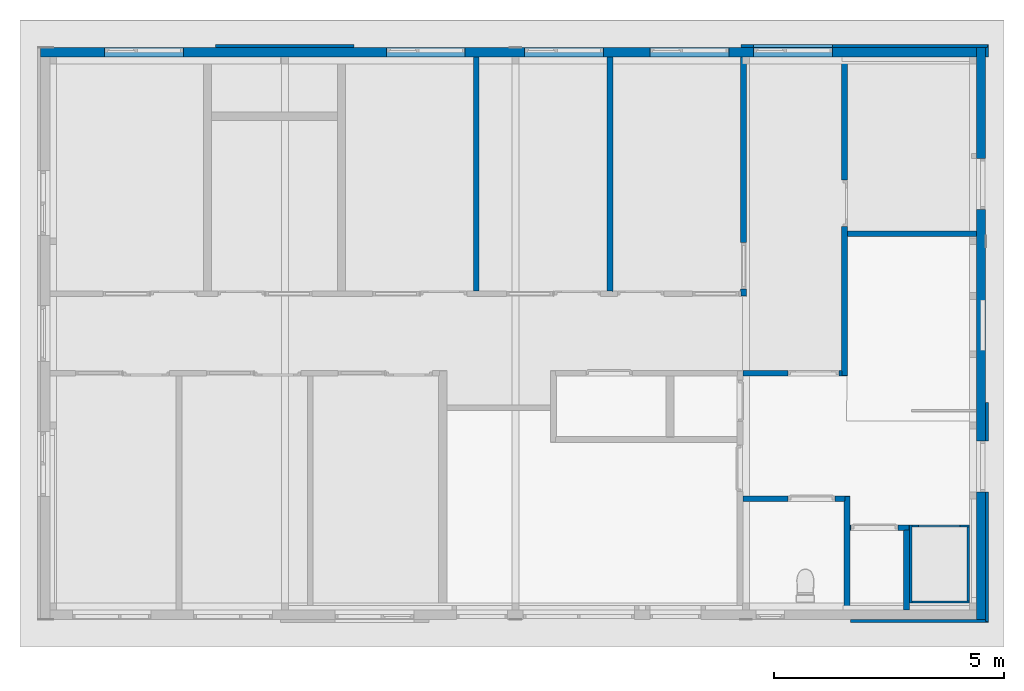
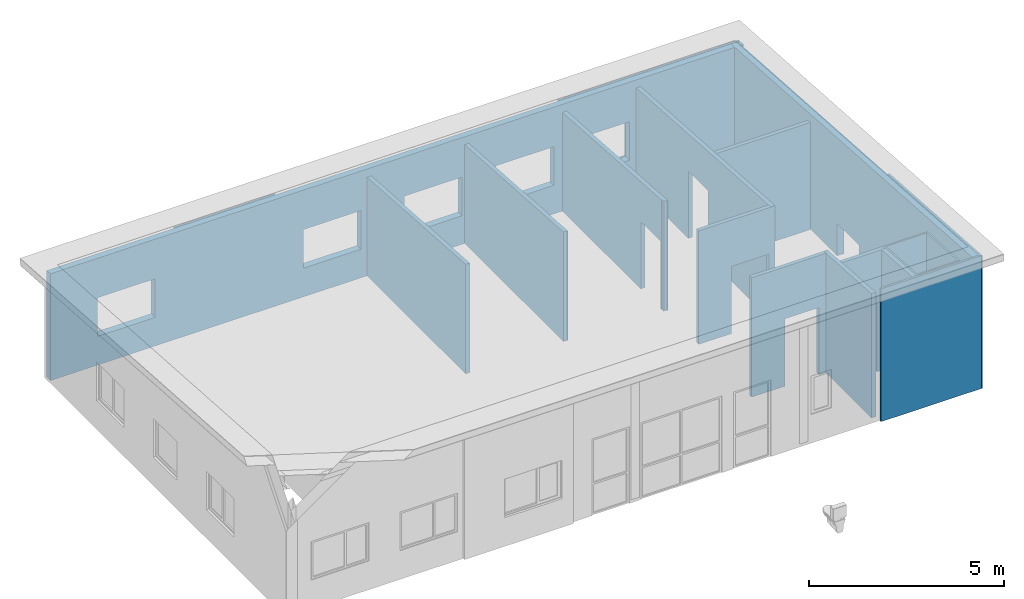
# One storey, part 3 of 37: 21 walls, 16 openings.
"""IFC2X3 building model written with IfcOpenShell, lengths in millimetres."""

from ifc_helpers import new_model, entity, si_unit, converted_unit, frame, frame_2d, origin, origin_with_axes, place, context, subcontext, project, spatial, polyline, rectangle, outline, extrude, clip, halfspace, bounded_halfspace, material, layer, layer_set, layer_usage, element, save


model = new_model("IFC2X3")

# Units and contexts
model_context = context("Model", 3, precision=1e-05, world=origin())
plan_context = context("Plan", 3, precision=1e-05, world=origin())
body_context = subcontext(model_context, "Body", "Model", "MODEL_VIEW")
ifc_project = project(units=[si_unit("LENGTHUNIT", "METRE", prefix="MILLI"), converted_unit("PLANEANGLEUNIT", "DEGREE", entity("IfcPlaneAngleMeasure", 0.0174532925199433), si_unit("PLANEANGLEUNIT", "RADIAN"), dimensions=[0, 0, 0, 0, 0, 0, 0]), si_unit("AREAUNIT", "SQUARE_METRE"), si_unit("VOLUMEUNIT", "CUBIC_METRE")], contexts=[model_context, plan_context])

# Building, storey
building_placement = place(None, origin())
building = spatial("IfcBuilding", under=ifc_project, at=building_placement, Name="HEKF Administrasjonbygg", CompositionType="ELEMENT")
storey_placement = place(building_placement, frame((0.0, 0.0, 9900.0), z_axis=(0.0, 0.0, 1.0), x_axis=(1.0, 0.0, 0.0)))
storey = spatial("IfcBuildingStorey", under=building, at=storey_placement, Name="Plan 2", CompositionType="ELEMENT", Elevation=9900.0)

# Wall
ifc_material_1 = material(Name="Lekter")
ifc_layer_1 = layer(ifc_material_1, 46.0)
ifc_material_2 = material(Name="Kledning")
ifc_layer_2 = layer(ifc_material_2, 19.0)
ifc_layer_set_1 = layer_set([ifc_layer_1, ifc_layer_2])
ifc_layer_usage_1 = layer_usage(ifc_layer_set_1, "AXIS2", "POSITIVE", 0.0)
wall_1_placement = place(storey_placement, frame((30200.0, -12200.0, 0.0), z_axis=(0.0, 0.0, 1.0), x_axis=(-1.0, 0.0, 0.0)))
element("IfcWallStandardCase", 1, at=wall_1_placement, inside=storey, material=ifc_layer_usage_1, context=body_context, shape_type="Clipping", body=[
    clip(extrude(outline(polyline([(-46.0, 65.0), (-46.0, 46.0), (0.0, 46.0), (0.0, 0.0), (2935.0, 0.0), (2935.0, 65.0), (-46.0, 65.0)])), origin_with_axes(), (0.0, 0.0, 1.0), 4167.666666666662), halfspace(frame((0.0, 0.0, 4163.33333333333), z_axis=(1.889963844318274e-17, 0.06651901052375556, -0.9977851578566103), x_axis=(1.0, 0.0, 0.0)), True)),
])

# Wall, opening
ifc_material_3 = material(Name="Lekter")
ifc_layer_3 = layer(ifc_material_3, 46.0)
ifc_material_4 = material(Name="Kledning")
ifc_layer_4 = layer(ifc_material_4, 19.0)
ifc_layer_set_2 = layer_set([ifc_layer_3, ifc_layer_4])
ifc_layer_usage_2 = layer_usage(ifc_layer_set_2, "AXIS2", "POSITIVE", 0.0)
wall_2_placement = place(storey_placement, frame((30200.0, -7500.0, 0.0), z_axis=(0.0, 0.0, 1.0), x_axis=(0.0, -1.0, 0.0)))
wall_2 = element("IfcWallStandardCase", 2, at=wall_2_placement, inside=storey, material=ifc_layer_usage_2, context=body_context, shape_type="Clipping", body=[
    clip(extrude(outline(polyline([(0.0, 0.0), (4746.000000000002, 0.0), (4746.000000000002, 46.0), (4765.000000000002, 46.0), (4765.000000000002, 65.0), (0.0, 65.0), (0.0, 0.0)])), origin_with_axes(), (0.0, 0.0, 1.0), 4167.666666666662), halfspace(frame((0.0, 0.0, 3849.999999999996), z_axis=(0.0665190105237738, -7.246110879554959e-16, -0.9977851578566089), x_axis=(0.997785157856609, 0.0, 0.06651901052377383)), True)),
])
opening_1_placement = place(wall_2_placement, frame((830.6077025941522, 0.0, 0.0), z_axis=(0.0, 1.0, 0.0), x_axis=(0.0, 0.0, 1.0)))
element("IfcOpeningElement", 3, at=opening_1_placement, cuts=wall_2, Name="Window opening", ObjectType="Opening", context=body_context, shape_type="SweptSolid", body=[
    extrude(rectangle(XDim=2110.0, YDim=1110.0, at=frame_2d((1055.0, 555.0), x_axis=(1.0, 0.0))), origin_with_axes(), (0.0, 0.0, 1.0), 65.0),
])

# Wall, openings
ifc_material_5 = material(Name="Paroc 200")
ifc_layer_5 = layer(ifc_material_5, 200.0)
ifc_layer_set_3 = layer_set([ifc_layer_5])
ifc_layer_usage_3 = layer_usage(ifc_layer_set_3, "AXIS2", "POSITIVE", 0.0)
wall_3_placement = place(storey_placement, frame((30000.0, 200.0, 0.0), z_axis=(0.0, 0.0, 1.0), x_axis=(0.0, -1.0, 0.0)))
wall_3 = element("IfcWallStandardCase", 4, at=wall_3_placement, inside=storey, material=ifc_layer_usage_3, context=body_context, shape_type="Clipping", body=[
    clip(extrude(rectangle(XDim=12400.0, YDim=200.0, at=frame_2d((6200.000000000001, 100.0), x_axis=(1.0, 0.0))), origin_with_axes(), (0.0, 0.0, 1.0), 4163.33333333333), halfspace(frame((0.0, 0.0, 3336.666666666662), z_axis=(0.06651901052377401, -2.363229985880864e-18, -0.9977851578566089), x_axis=(0.997785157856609, 0.0, 0.06651901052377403)), True)),
])
opening_2_placement = place(wall_3_placement, frame((2400.482789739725, 0.0, 0.0), z_axis=(0.0, 1.0, 0.0), x_axis=(0.0, 0.0, 1.0)))
element("IfcOpeningElement", 5, at=opening_2_placement, cuts=wall_3, Name="Window opening", ObjectType="Opening", context=body_context, shape_type="SweptSolid", body=[
    extrude(rectangle(XDim=2110.0, YDim=1110.0, at=frame_2d((1055.0, 555.0), x_axis=(1.0, 0.0))), origin_with_axes(), (0.0, 0.0, 1.0), 200.0),
])
opening_3_placement = place(wall_3_placement, frame((5466.053432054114, 0.0, -1400.0), z_axis=(0.0, 1.0, 0.0), x_axis=(0.0, 0.0, 1.0)))
element("IfcOpeningElement", 6, at=opening_3_placement, cuts=wall_3, Name="Window opening", ObjectType="Opening", context=body_context, shape_type="SweptSolid", body=[
    extrude(rectangle(XDim=2410.0, YDim=1110.0, at=frame_2d((1205.0, 555.0), x_axis=(1.0, 0.0))), origin_with_axes(), (0.0, 0.0, 1.0), 200.0),
])
opening_4_placement = place(wall_3_placement, frame((8531.624074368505, 0.0, 0.0), z_axis=(0.0, 1.0, 0.0), x_axis=(0.0, 0.0, 1.0)))
element("IfcOpeningElement", 7, at=opening_4_placement, cuts=wall_3, Name="Window opening", ObjectType="Opening", context=body_context, shape_type="SweptSolid", body=[
    extrude(rectangle(XDim=2110.0, YDim=1110.0, at=frame_2d((1055.0, 555.0), x_axis=(1.0, 0.0))), origin_with_axes(), (0.0, 0.0, 1.0), 200.0),
])

ifc_material_6 = material(Name="Paroc 200")
ifc_layer_6 = layer(ifc_material_6, 200.0)
ifc_layer_set_4 = layer_set([ifc_layer_6])
ifc_layer_usage_4 = layer_usage(ifc_layer_set_4, "AXIS2", "POSITIVE", 0.0)
wall_4_placement = place(storey_placement, frame((9699.999999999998, 0.0, 0.0), z_axis=(0.0, 0.0, 1.0), x_axis=(1.0, 0.0, 0.0)))
wall_4 = element("IfcWallStandardCase", 8, at=wall_4_placement, inside=storey, material=ifc_layer_usage_4, context=body_context, shape_type="Clipping", body=[
    clip(extrude(rectangle(XDim=20300.0, YDim=200.0, at=frame_2d((10150.0, 100.0), x_axis=(1.0, 0.0))), origin_with_axes(), (0.0, 0.0, 1.0), 3349.999999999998), halfspace(frame((0.0, 0.0, 3349.999999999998), z_axis=(0.0, -0.06651901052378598, -0.9977851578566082), x_axis=(1.0, 0.0, 0.0)), True)),
])
opening_5_placement = place(wall_4_placement, frame((15470.0, 0.0, 900.0), z_axis=(0.0, 1.0, 0.0), x_axis=(0.0, 0.0, 1.0)))
element("IfcOpeningElement", 9, at=opening_5_placement, cuts=wall_4, Name="Window opening", ObjectType="Opening", context=body_context, shape_type="SweptSolid", body=[
    extrude(rectangle(XDim=1210.0, YDim=1710.0, at=frame_2d((605.0, 855.0), x_axis=(1.0, 0.0))), origin_with_axes(), (0.0, 0.0, 1.0), 200.0),
])
opening_6_placement = place(wall_4_placement, frame((7500.000000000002, 0.0, 900.0), z_axis=(0.0, 1.0, 0.0), x_axis=(0.0, 0.0, 1.0)))
element("IfcOpeningElement", 10, at=opening_6_placement, cuts=wall_4, Name="Window opening", ObjectType="Opening", context=body_context, shape_type="SweptSolid", body=[
    extrude(rectangle(XDim=1210.0, YDim=1710.0, at=frame_2d((605.0, 855.0), x_axis=(1.0, 0.0))), origin_with_axes(), (0.0, 0.0, 1.0), 200.0),
])
opening_7_placement = place(wall_4_placement, frame((13220.0, 0.0, 900.0), z_axis=(0.0, 1.0, 0.0), x_axis=(0.0, 0.0, 1.0)))
element("IfcOpeningElement", 11, at=opening_7_placement, cuts=wall_4, Name="Window opening", ObjectType="Opening", context=body_context, shape_type="SweptSolid", body=[
    extrude(rectangle(XDim=1210.0, YDim=1710.0, at=frame_2d((605.0, 855.0), x_axis=(1.0, 0.0))), origin_with_axes(), (0.0, 0.0, 1.0), 200.0),
])
opening_8_placement = place(wall_4_placement, frame((10500.0, 0.0, 900.0), z_axis=(0.0, 1.0, 0.0), x_axis=(0.0, 0.0, 1.0)))
element("IfcOpeningElement", 12, at=opening_8_placement, cuts=wall_4, Name="Window opening", ObjectType="Opening", context=body_context, shape_type="SweptSolid", body=[
    extrude(rectangle(XDim=1210.0, YDim=1710.0, at=frame_2d((605.0, 855.0), x_axis=(1.0, 0.0))), origin_with_axes(), (0.0, 0.0, 1.0), 200.0),
])
opening_9_placement = place(wall_4_placement, frame((1390.000000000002, 0.0, 900.0), z_axis=(0.0, 1.0, 0.0), x_axis=(0.0, 0.0, 1.0)))
element("IfcOpeningElement", 13, at=opening_9_placement, cuts=wall_4, Name="Window opening", ObjectType="Opening", context=body_context, shape_type="SweptSolid", body=[
    extrude(rectangle(XDim=1210.0, YDim=1710.0, at=frame_2d((605.0, 855.0), x_axis=(1.0, 0.0))), origin_with_axes(), (0.0, 0.0, 1.0), 200.0),
])

# Wall, opening
ifc_material_7 = material(Name="Lekter")
ifc_layer_7 = layer(ifc_material_7, 46.0)
ifc_material_8 = material(Name="Kledning")
ifc_layer_8 = layer(ifc_material_8, 18.99999999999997)
ifc_layer_set_5 = layer_set([ifc_layer_7, ifc_layer_8])
ifc_layer_usage_5 = layer_usage(ifc_layer_set_5, "AXIS2", "POSITIVE", 0.0)
wall_5_placement = place(storey_placement, frame((24900.0, 200.0000000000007, 0.0), z_axis=(0.0, 0.0, 1.0), x_axis=(0.9999999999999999, -1.275946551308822e-16, 0.0)))
wall_5 = element("IfcWallStandardCase", 14, at=wall_5_placement, inside=storey, material=ifc_layer_usage_5, context=body_context, shape_type="Clipping", body=[
    clip(extrude(outline(polyline([(0.0, 0.0), (5345.999999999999, 0.0), (5345.999999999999, 45.99999999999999), (5364.999999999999, 45.99999999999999), (5364.999999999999, 64.99999999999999), (-8.29365258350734e-15, 64.99999999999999), (0.0, 0.0)])), origin_with_axes(), (0.0, 0.0, 1.0), 3336.666666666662), halfspace(frame((0.0, 0.0, 3336.666666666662), z_axis=(1.304000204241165e-16, -0.06651901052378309, -0.9977851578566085), x_axis=(1.0, 0.0, 0.0)), True)),
])
opening_10_placement = place(wall_5_placement, frame((270.0, 2.273736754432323e-15, 900.0), z_axis=(0.0, 1.0, 0.0), x_axis=(0.0, 0.0, 1.0)))
element("IfcOpeningElement", 15, at=opening_10_placement, cuts=wall_5, Name="Window opening", ObjectType="Opening", context=body_context, shape_type="SweptSolid", body=[
    extrude(rectangle(XDim=1210.0, YDim=1710.0, at=frame_2d((605.0, 855.0), x_axis=(1.0, 0.0))), origin_with_axes(), (0.0, 0.0, 1.0), 64.99999999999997),
])

# Walls
ifc_material_9 = material(Name="Lekter")
ifc_layer_9 = layer(ifc_material_9, 46.0)
ifc_material_10 = material(Name="Kledning")
ifc_layer_10 = layer(ifc_material_10, 19.0)
ifc_layer_set_6 = layer_set([ifc_layer_9, ifc_layer_10])
ifc_layer_usage_6 = layer_usage(ifc_layer_set_6, "AXIS2", "POSITIVE", 0.0)
wall_6_placement = place(storey_placement, frame((30200.0, 200.0, 0.0), z_axis=(0.0, 0.0, 1.0), x_axis=(0.0, -1.0, 0.0)))
element("IfcWallStandardCase", 16, at=wall_6_placement, inside=storey, material=ifc_layer_usage_6, context=body_context, shape_type="Clipping", body=[
    clip(extrude(outline(polyline([(-46.0, 65.0), (-46.0, 46.0), (0.0, 46.0), (0.0, 0.0), (200.0, 0.0), (200.0, 65.0), (-46.0, 65.0)])), origin_with_axes(), (0.0, 0.0, 1.0), 3349.999999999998), halfspace(frame((0.0, 0.0, 3336.666666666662), z_axis=(0.066519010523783, 9.400984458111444e-15, -0.9977851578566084), x_axis=(0.9977851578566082, 0.0, 0.06651901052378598)), True)),
])
ifc_material_11 = material(Name="Lekter")
ifc_layer_11 = layer(ifc_material_11, 46.0)
ifc_material_12 = material(Name="Kledning")
ifc_layer_12 = layer(ifc_material_12, 19.0)
ifc_layer_set_7 = layer_set([ifc_layer_11, ifc_layer_12])
ifc_layer_usage_7 = layer_usage(ifc_layer_set_7, "AXIS2", "POSITIVE", 0.0)
wall_7_placement = place(storey_placement, frame((13500.0, 200.0, 0.0), z_axis=(0.0, 0.0, 1.0), x_axis=(1.0, 0.0, 0.0)))
element("IfcWallStandardCase", 17, at=wall_7_placement, inside=storey, material=ifc_layer_usage_7, context=body_context, shape_type="Clipping", body=[
    clip(extrude(rectangle(XDim=3000.0, YDim=65.0, at=frame_2d((1500.0, 32.5), x_axis=(1.0, 0.0))), origin_with_axes(), (0.0, 0.0, 1.0), 3336.666666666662), halfspace(frame((0.0, 0.0, 3336.666666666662), z_axis=(0.0, -0.0665190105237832, -0.9977851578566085), x_axis=(1.0, 0.0, 0.0)), True)),
])

# Wall, opening
ifc_material_13 = material(Name="gips")
ifc_layer_13 = layer(ifc_material_13, 13.0)
ifc_material_14 = material(Name="riegel stål 100")
ifc_layer_14 = layer(ifc_material_14, 100.0)
ifc_material_15 = material(Name="gips")
ifc_layer_15 = layer(ifc_material_15, 13.0)
ifc_layer_set_8 = layer_set([ifc_layer_13, ifc_layer_14, ifc_layer_15])
ifc_layer_usage_8 = layer_usage(ifc_layer_set_8, "AXIS2", "POSITIVE", 0.0)
wall_8_placement = place(storey_placement, frame((25013.0, -5201.0, 0.0), z_axis=(0.0, 0.0, 1.0), x_axis=(0.0, 1.0, 0.0)))
wall_8 = element("IfcWallStandardCase", 18, at=wall_8_placement, inside=storey, material=ifc_layer_usage_8, context=body_context, shape_type="Clipping", body=[
    clip(extrude(outline(polyline([(113.0, 126.0), (113.0, 113.0), (13.0, 113.0), (13.0, 13.0), (0.0, 13.0), (0.0, 0.0), (5201.0, 0.0), (5201.0, 126.0), (113.0, 126.0)])), origin_with_axes(), (0.0, 0.0, 1.0), 3446.733333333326), halfspace(frame((0.0, 0.0, 3446.733333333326), z_axis=(-0.06651901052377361, 1.85606354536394e-15, -0.9977851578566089), x_axis=(0.9977851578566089, 0.0, -0.06651901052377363)), True)),
])
opening_11_placement = place(wall_8_placement, frame((163.0, 0.0, 0.0), z_axis=(0.0, 1.0, 0.0), x_axis=(0.0, 0.0, 1.0)))
element("IfcOpeningElement", 19, at=opening_11_placement, cuts=wall_8, Name="Window opening", ObjectType="Opening", context=body_context, shape_type="SweptSolid", body=[
    extrude(rectangle(XDim=2110.0, YDim=1010.0, at=frame_2d((1055.0, 505.0), x_axis=(1.0, 0.0))), origin_with_axes(), (0.0, 0.0, 1.0), 126.0),
])

# Walls
ifc_material_16 = material(Name="gips")
ifc_layer_16 = layer(ifc_material_16, 13.0)
ifc_material_17 = material(Name="riegel stål 100")
ifc_layer_17 = layer(ifc_material_17, 100.0)
ifc_material_18 = material(Name="gips")
ifc_layer_18 = layer(ifc_material_18, 13.0)
ifc_layer_set_9 = layer_set([ifc_layer_16, ifc_layer_17, ifc_layer_18])
ifc_layer_usage_9 = layer_usage(ifc_layer_set_9, "AXIS2", "POSITIVE", 0.0)
wall_9_placement = place(storey_placement, frame((22113.0, -5088.0, 0.0), z_axis=(0.0, 0.0, 1.0), x_axis=(0.0, 1.0, 0.0)))
element("IfcWallStandardCase", 20, at=wall_9_placement, inside=storey, material=ifc_layer_usage_9, context=body_context, shape_type="Clipping", body=[
    clip(extrude(outline(polyline([(13.0, 126.0), (13.0, 13.0), (0.0, 13.0), (0.0, 0.0), (5088.0, 0.0), (5088.0, 126.0), (13.0, 126.0)])), origin_with_axes(), (0.0, 0.0, 1.0), 3439.199999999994), halfspace(frame((0.0, 0.0, 3439.199999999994), z_axis=(-0.06651901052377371, -9.588021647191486e-17, -0.997785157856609), x_axis=(0.997785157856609, 0.0, -0.06651901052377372)), True)),
])
ifc_material_19 = material(Name="gips")
ifc_layer_19 = layer(ifc_material_19, 13.0)
ifc_material_20 = material(Name="riegel stål 100")
ifc_layer_20 = layer(ifc_material_20, 100.0)
ifc_material_21 = material(Name="gips")
ifc_layer_21 = layer(ifc_material_21, 13.0)
ifc_layer_set_10 = layer_set([ifc_layer_19, ifc_layer_20, ifc_layer_21])
ifc_layer_usage_10 = layer_usage(ifc_layer_set_10, "AXIS2", "POSITIVE", 0.0)
wall_10_placement = place(storey_placement, frame((19213.0, -5075.0, 0.0), z_axis=(0.0, 0.0, 1.0), x_axis=(0.0, 1.0, 0.0)))
element("IfcWallStandardCase", 21, at=wall_10_placement, inside=storey, material=ifc_layer_usage_10, context=body_context, shape_type="Clipping", body=[
    clip(extrude(rectangle(XDim=5075.0, YDim=126.0, at=frame_2d((2537.5, 63.0), x_axis=(1.0, 0.0))), origin_with_axes(), (0.0, 0.0, 1.0), 3438.333333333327), halfspace(frame((0.0, 0.0, 3438.333333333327), z_axis=(-0.0665190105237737, 0.0, -0.9977851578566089), x_axis=(0.997785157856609, 0.0, -0.0665190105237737)), True)),
])

# Wall, opening
ifc_material_22 = material(Name="gips")
ifc_layer_22 = layer(ifc_material_22, 13.0)
ifc_material_23 = material(Name="riegel stål 100")
ifc_layer_23 = layer(ifc_material_23, 100.0)
ifc_material_24 = material(Name="gips")
ifc_layer_24 = layer(ifc_material_24, 13.0)
ifc_layer_set_11 = layer_set([ifc_layer_22, ifc_layer_23, ifc_layer_24])
ifc_layer_usage_11 = layer_usage(ifc_layer_set_11, "AXIS2", "POSITIVE", 0.0)
wall_11_placement = place(storey_placement, frame((27077.53209661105, -6799.0, 0.0), z_axis=(0.0, 0.0, 1.0), x_axis=(-1.0, 0.0, 0.0)))
wall_11 = element("IfcWallStandardCase", 22, at=wall_11_placement, inside=storey, material=ifc_layer_usage_11, context=body_context, shape_type="Clipping", body=[
    clip(clip(extrude(outline(polyline([(-113.0, 126.0), (-113.0, 113.0), (-13.0, 113.0), (-13.0, 13.0), (0.0, 13.0), (0.0, 0.0), (2144.614546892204, 0.0), (2144.614546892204, 126.0), (-113.0, 126.0)])), origin_with_axes(), (0.0, 0.0, 1.0), 3561.666666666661), bounded_halfspace(frame((2157.614546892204, 0.0, 3553.266666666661), z_axis=(0.0, 0.06651901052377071, -0.9977851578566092), x_axis=(1.0, 0.0, 0.0)), True, origin(), polyline([(2157.614546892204, 0.0), (6301.532096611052, 0.0), (6301.532096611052, 13.0), (6201.532096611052, 13.0), (6201.532096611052, 113.0), (6188.532096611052, 113.0), (6188.532096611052, 126.0), (2270.614546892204, 126.0), (2270.614546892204, 113.0), (2257.614546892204, 113.0), (2257.614546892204, 13.0), (2157.614546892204, 13.0), (2157.614546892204, 0.0)]))), bounded_halfspace(frame((0.0, 0.0, 3553.266666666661), z_axis=(0.0, 0.06651901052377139, -0.9977851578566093), x_axis=(1.0, 0.0, 0.0)), True, origin(), polyline([(0.0, 0.0), (2144.614546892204, 0.0), (2144.614546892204, 126.0), (-113.0, 126.0), (-113.0, 113.0), (-13.0, 113.0), (-13.0, 13.0), (0.0, 13.0), (0.0, 0.0)]))),
])
opening_12_placement = place(wall_11_placement, frame((56.68656002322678, 0.0, 0.0), z_axis=(0.0, 1.0, 0.0), x_axis=(0.0, 0.0, 1.0)))
element("IfcOpeningElement", 23, at=opening_12_placement, cuts=wall_11, Name="Door opening", ObjectType="Opening", context=body_context, shape_type="SweptSolid", body=[
    extrude(rectangle(XDim=2110.0, YDim=1110.0, at=frame_2d((1055.0, 555.0), x_axis=(1.0, 0.0))), origin_with_axes(), (0.0, 0.0, 1.0), 126.0),
])

ifc_material_25 = material(Name="gips")
ifc_layer_25 = layer(ifc_material_25, 13.0)
ifc_material_26 = material(Name="riegel stål 100")
ifc_layer_26 = layer(ifc_material_26, 100.0)
ifc_material_27 = material(Name="gips")
ifc_layer_27 = layer(ifc_material_27, 13.0)
ifc_layer_set_12 = layer_set([ifc_layer_25, ifc_layer_26, ifc_layer_27])
ifc_layer_usage_12 = layer_usage(ifc_layer_set_12, "AXIS2", "POSITIVE", 0.0)
wall_12_placement = place(storey_placement, frame((27077.53209661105, 0.0, 0.0), z_axis=(0.0, 0.0, 1.0), x_axis=(0.0, -1.0, 0.0)))
wall_12 = element("IfcWallStandardCase", 24, at=wall_12_placement, inside=storey, material=ifc_layer_usage_12, context=body_context, shape_type="Clipping", body=[
    clip(extrude(outline(polyline([(0.0, 0.0), (6812.0, 0.0), (6812.0, 13.0), (6912.0, 13.0), (6912.0, 113.0), (6925.0, 113.0), (6925.0, 126.0), (0.0, 126.0), (0.0, 0.0)])), origin_with_axes(), (0.0, 0.0, 1.0), 3561.666666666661), halfspace(frame((0.0, 0.0, 3099.999999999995), z_axis=(0.06651901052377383, -2.312668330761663e-15, -0.9977851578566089), x_axis=(0.997785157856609, 0.0, 0.06651901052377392)), True)),
])
opening_13_placement = place(wall_12_placement, frame((2674.873037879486, 0.0, 0.0), z_axis=(0.0, 1.0, 0.0), x_axis=(0.0, 0.0, 1.0)))
element("IfcOpeningElement", 25, at=opening_13_placement, cuts=wall_12, Name="garasjeport med glassfelter:45x6", ObjectType="Opening", context=body_context, shape_type="SweptSolid", body=[
    extrude(rectangle(XDim=2110.0, YDim=1010.0, at=frame_2d((1055.0, 505.0), x_axis=(1.0, 0.0))), origin_with_axes(), (0.0, 0.0, 1.0), 126.0),
])

# Wall
ifc_material_28 = material(Name="gips")
ifc_layer_28 = layer(ifc_material_28, 13.0)
ifc_material_29 = material(Name="riegel stål 100")
ifc_layer_29 = layer(ifc_material_29, 100.0)
ifc_material_30 = material(Name="gips")
ifc_layer_30 = layer(ifc_material_30, 13.0)
ifc_layer_set_13 = layer_set([ifc_layer_28, ifc_layer_29, ifc_layer_30])
ifc_layer_usage_13 = layer_usage(ifc_layer_set_13, "AXIS2", "POSITIVE", 0.0)
wall_13_placement = place(storey_placement, frame((30000.0, -3774.000000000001, 0.0), z_axis=(0.0, 0.0, 1.0), x_axis=(-1.0, 0.0, 0.0)))
element("IfcWallStandardCase", 26, at=wall_13_placement, inside=storey, material=ifc_layer_usage_13, context=body_context, shape_type="Clipping", body=[
    clip(extrude(rectangle(XDim=2796.467903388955, YDim=126.0, at=frame_2d((1398.233951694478, 63.0), x_axis=(1.0, 0.0))), origin_with_axes(), (0.0, 0.0, 1.0), 3359.999999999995), halfspace(frame((0.0, 0.0, 3351.599999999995), z_axis=(0.0, 0.06651901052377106, -0.9977851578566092), x_axis=(1.0, 0.0, 0.0)), True)),
])

# Wall, opening
ifc_material_31 = material(Name="gips")
ifc_layer_31 = layer(ifc_material_31, 13.0)
ifc_material_32 = material(Name="riegel stål 100")
ifc_layer_32 = layer(ifc_material_32, 100.0)
ifc_material_33 = material(Name="gips")
ifc_layer_33 = layer(ifc_material_33, 13.0)
ifc_layer_set_14 = layer_set([ifc_layer_31, ifc_layer_32, ifc_layer_33])
ifc_layer_usage_14 = layer_usage(ifc_layer_set_14, "AXIS2", "POSITIVE", 0.0)
wall_14_placement = place(storey_placement, frame((27245.91754971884, -9524.000000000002, 0.0), z_axis=(0.0, 0.0, 1.0), x_axis=(-1.0, 0.0, 0.0)))
wall_14 = element("IfcWallStandardCase", 27, at=wall_14_placement, inside=storey, material=ifc_layer_usage_14, context=body_context, shape_type="Clipping", body=[
    clip(extrude(outline(polyline([(113.0, 126.0), (113.0, 113.0), (100.0, 113.0), (100.0, 13.0), (0.0, 13.0), (0.0, 0.0), (2313.0, 0.0), (2313.0, 126.0), (113.0, 126.0)])), origin_with_axes(), (0.0, 0.0, 1.0), 3743.333333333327), halfspace(frame((0.0, 0.0, 3734.933333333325), z_axis=(0.0, 0.0665190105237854, -0.9977851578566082), x_axis=(1.0, 0.0, 0.0)), True)),
])
opening_14_placement = place(wall_14_placement, frame((316.2869168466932, 0.0, 0.0), z_axis=(0.0, 1.0, 0.0), x_axis=(0.0, 0.0, 1.0)))
element("IfcOpeningElement", 28, at=opening_14_placement, cuts=wall_14, Name="garasjeport med glassfelter:45x6", ObjectType="Opening", context=body_context, shape_type="SweptSolid", body=[
    extrude(rectangle(XDim=2110.0, YDim=1010.0, at=frame_2d((1055.0, 505.0), x_axis=(1.0, 0.0))), origin_with_axes(), (0.0, 0.0, 1.0), 126.0),
])

# Wall
ifc_material_34 = material(Name="gips")
ifc_layer_34 = layer(ifc_material_34, 13.0)
ifc_material_35 = material(Name="riegel stål 100")
ifc_layer_35 = layer(ifc_material_35, 100.0)
ifc_material_36 = material(Name="gips")
ifc_layer_36 = layer(ifc_material_36, 13.0)
ifc_layer_set_15 = layer_set([ifc_layer_34, ifc_layer_35, ifc_layer_36])
ifc_layer_usage_15 = layer_usage(ifc_layer_set_15, "AXIS2", "POSITIVE", 0.0)
wall_15_placement = place(storey_placement, frame((27132.91754971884, -9637.000000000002, 0.0), z_axis=(0.0, 0.0, 1.0), x_axis=(0.0, -1.0, 0.0)))
element("IfcWallStandardCase", 29, at=wall_15_placement, inside=storey, material=ifc_layer_usage_15, context=body_context, shape_type="Clipping", body=[
    clip(extrude(outline(polyline([(-113.0, 126.0), (-113.0, 113.0), (-100.0, 113.0), (-100.0, 13.0), (0.0, 13.0), (0.0, 0.0), (2363.0, 0.0), (2363.0, 126.0), (-113.0, 126.0)])), origin_with_axes(), (0.0, 0.0, 1.0), 3899.999999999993), halfspace(frame((0.0, 0.0, 3742.46666666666), z_axis=(0.06651901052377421, -4.915834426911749e-15, -0.9977851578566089), x_axis=(0.9977851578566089, 0.0, 0.06651901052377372)), True)),
])

# Wall, opening
ifc_material_37 = material(Name="Betong")
ifc_layer_37 = layer(ifc_material_37, 50.0)
ifc_layer_set_16 = layer_set([ifc_layer_37])
ifc_layer_usage_16 = layer_usage(ifc_layer_set_16, "AXIS2", "POSITIVE", 0.0)
wall_16_placement = place(storey_placement, frame((28600.0, -10200.0, -230.0), z_axis=(0.0, 0.0, 1.0), x_axis=(1.0, 0.0, 0.0)))
wall_16 = element("IfcWallStandardCase", 30, at=wall_16_placement, inside=storey, material=ifc_layer_usage_16, context=body_context, shape_type="Clipping", body=[
    clip(extrude(rectangle(XDim=1250.0, YDim=50.0, at=frame_2d((625.0, 25.0), x_axis=(1.0, 0.0))), origin_with_axes(), (0.0, 0.0, 1.0), 4009.999999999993), halfspace(frame((0.0, 0.0, 4009.999999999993), z_axis=(0.0, -0.06651901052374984, -0.9977851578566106), x_axis=(1.0, 0.0, 0.0)), True)),
])
opening_15_placement = place(wall_16_placement, frame((150.0, 0.0, 230.0), z_axis=(0.0, 1.0, 0.0), x_axis=(0.0, 0.0, 1.0)))
element("IfcOpeningElement", 31, at=opening_15_placement, cuts=wall_16, Name="Door opening", ObjectType="Opening", context=body_context, shape_type="SweptSolid", body=[
    extrude(rectangle(XDim=2100.0, YDim=900.0, at=frame_2d((1050.0, 450.0), x_axis=(1.0, 0.0))), origin_with_axes(), (0.0, 0.0, 1.0), 50.0),
])

# Walls
ifc_material_38 = material(Name="Betong")
ifc_layer_38 = layer(ifc_material_38, 50.0)
ifc_layer_set_17 = layer_set([ifc_layer_38])
ifc_layer_usage_17 = layer_usage(ifc_layer_set_17, "AXIS2", "POSITIVE", 0.0)
wall_17_placement = place(storey_placement, frame((29850.0, -11800.0, -230.0), z_axis=(0.0, 0.0, 1.0), x_axis=(-1.0, 0.0, 0.0)))
element("IfcWallStandardCase", 32, at=wall_17_placement, inside=storey, material=ifc_layer_usage_17, context=body_context, shape_type="Clipping", body=[
    clip(extrude(rectangle(XDim=1250.0, YDim=50.0, at=frame_2d((625.0, 25.0), x_axis=(1.0, 0.0))), origin_with_axes(), (0.0, 0.0, 1.0), 4119.999999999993), halfspace(frame((0.0, 0.0, 4116.666666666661), z_axis=(0.0, 0.06651901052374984, -0.9977851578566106), x_axis=(1.0, 0.0, 0.0)), True)),
])
ifc_material_39 = material(Name="Betong")
ifc_layer_39 = layer(ifc_material_39, 50.0)
ifc_layer_set_18 = layer_set([ifc_layer_39])
ifc_layer_usage_18 = layer_usage(ifc_layer_set_18, "AXIS2", "POSITIVE", 0.0)
wall_18_placement = place(storey_placement, frame((29800.0, -10200.0, -230.0), z_axis=(0.0, 0.0, 1.0), x_axis=(0.0, -1.0, 0.0)))
element("IfcWallStandardCase", 33, at=wall_18_placement, inside=storey, material=ifc_layer_usage_18, context=body_context, shape_type="Clipping", body=[
    clip(extrude(rectangle(XDim=1600.0, YDim=50.0, at=frame_2d((800.0, 25.0), x_axis=(1.0, 0.0))), origin_with_axes(), (0.0, 0.0, 1.0), 4116.666666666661), halfspace(frame((0.0, 0.0, 4009.999999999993), z_axis=(0.0665190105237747, 0.0, -0.997785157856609), x_axis=(0.997785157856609, 0.0, 0.0665190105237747)), True)),
])
ifc_material_40 = material(Name="Betong")
ifc_layer_40 = layer(ifc_material_40, 49.99999999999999)
ifc_layer_set_19 = layer_set([ifc_layer_40])
ifc_layer_usage_19 = layer_usage(ifc_layer_set_19, "AXIS2", "POSITIVE", 0.0)
wall_19_placement = place(storey_placement, frame((28600.0, -11850.0, -230.0), z_axis=(0.0, 0.0, 1.0), x_axis=(0.0, 0.9999999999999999, 0.0)))
element("IfcWallStandardCase", 34, at=wall_19_placement, inside=storey, material=ifc_layer_usage_19, context=body_context, shape_type="Clipping", body=[
    clip(extrude(rectangle(XDim=1700.0, YDim=49.99999999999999, at=frame_2d((850.0, 25.0), x_axis=(1.0, 0.0))), origin_with_axes(), (0.0, 0.0, 1.0), 4119.999999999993), halfspace(frame((0.0, 0.0, 4119.999999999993), z_axis=(-0.06651901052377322, 8.540991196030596e-17, -0.9977851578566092), x_axis=(0.997785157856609, 0.0, -0.06651901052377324)), True)),
])
ifc_material_41 = material(Name="gips")
ifc_layer_41 = layer(ifc_material_41, 13.0)
ifc_material_42 = material(Name="riegel stål 100")
ifc_layer_42 = layer(ifc_material_42, 100.0)
ifc_material_43 = material(Name="gips")
ifc_layer_43 = layer(ifc_material_43, 13.0)
ifc_layer_set_20 = layer_set([ifc_layer_41, ifc_layer_42, ifc_layer_43])
ifc_layer_usage_20 = layer_usage(ifc_layer_set_20, "AXIS2", "POSITIVE", 0.0)
wall_20_placement = place(storey_placement, frame((28550.0, -12000.0, 0.0), z_axis=(0.0, 0.0, 1.0), x_axis=(0.0, 0.9999999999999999, 0.0)))
element("IfcWallStandardCase", 35, at=wall_20_placement, inside=storey, material=ifc_layer_usage_20, context=body_context, shape_type="Clipping", body=[
    clip(extrude(outline(polyline([(0.0, 0.0), (1836.999999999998, 0.0), (1836.999999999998, 13.0), (1736.999999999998, 13.0), (1736.999999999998, 113.0), (1723.999999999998, 113.0), (1723.999999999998, 126.0), (0.0, 126.0), (0.0, 0.0)])), origin_with_axes(), (0.0, 0.0, 1.0), 3899.999999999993), halfspace(frame((0.0, 0.0, 3899.999999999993), z_axis=(-0.06651901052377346, -6.055098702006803e-16, -0.9977851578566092), x_axis=(0.9977851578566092, 0.0, -0.06651901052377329)), True)),
])

# Wall, opening
ifc_material_44 = material(Name="gips")
ifc_layer_44 = layer(ifc_material_44, 13.0)
ifc_material_45 = material(Name="riegel stål 100")
ifc_layer_45 = layer(ifc_material_45, 100.0)
ifc_material_46 = material(Name="gips")
ifc_layer_46 = layer(ifc_material_46, 13.0)
ifc_layer_set_21 = layer_set([ifc_layer_44, ifc_layer_45, ifc_layer_46])
ifc_layer_usage_21 = layer_usage(ifc_layer_set_21, "AXIS2", "POSITIVE", 0.0)
wall_21_placement = place(storey_placement, frame((28550.0, -10150.0, 0.0), z_axis=(0.0, 0.0, 1.0), x_axis=(-1.0, 0.0, 0.0)))
wall_21 = element("IfcWallStandardCase", 36, at=wall_21_placement, inside=storey, material=ifc_layer_usage_21, context=body_context, shape_type="Clipping", body=[
    clip(extrude(outline(polyline([(113.0, 126.0), (113.0, 113.0), (13.0, 113.0), (13.0, 13.0), (0.0, 13.0), (0.0, 0.0), (1291.082450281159, 0.0), (1291.082450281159, 126.0), (113.0, 126.0)])), origin_with_axes(), (0.0, 0.0, 1.0), 3785.06666666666), halfspace(frame((0.0, 0.0, 3776.666666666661), z_axis=(0.0, 0.06651901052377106, -0.9977851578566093), x_axis=(1.0, 0.0, 0.0)), True)),
])
opening_16_placement = place(wall_21_placement, frame((254.3480308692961, 0.0, 0.0), z_axis=(0.0, 1.0, 0.0), x_axis=(0.0, 0.0, 1.0)))
element("IfcOpeningElement", 37, at=opening_16_placement, cuts=wall_21, Name="Door opening", ObjectType="Opening", context=body_context, shape_type="SweptSolid", body=[
    extrude(rectangle(XDim=2110.0, YDim=1010.0, at=frame_2d((1055.0, 505.0), x_axis=(1.0, 0.0))), origin_with_axes(), (0.0, 0.0, 1.0), 126.0),
])

save(model, "model.ifc")
